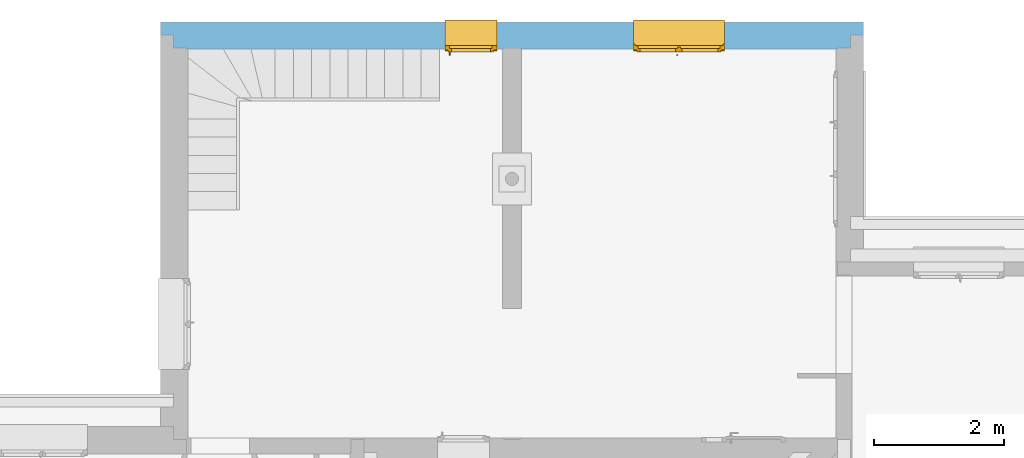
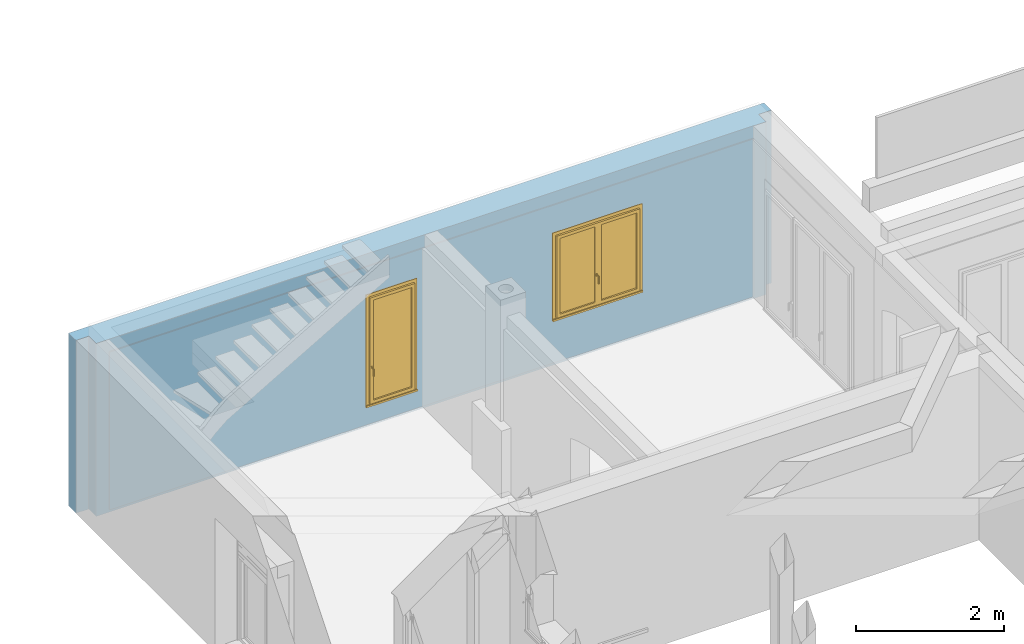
# One storey, part 12 of 16: 2 windows, 2 openings, plus 1 element that does not belong to this part.
"""IFC4 building model written with IfcOpenShell, lengths in metres."""

from ifc_helpers import new_model, entity, si_unit, converted_unit, frame, origin, origin_with_axes, place, context, subcontext, project, spatial, polyline, outline, extrude, clip, bounded_halfspace, closed_shell, open_shell, surface_model, source, transform, mapped, material, layer, layer_set, layer_usage, type_object, element, fill, save


model = new_model("IFC4")

# Units and contexts
model_context = context("Model", 3, precision=1e-05, world=origin())
body_context = subcontext(model_context, "Body", "Model", "MODEL_VIEW")
ifc_project = project(units=[si_unit("LENGTHUNIT", "METRE"), si_unit("AREAUNIT", "SQUARE_METRE"), si_unit("VOLUMEUNIT", "CUBIC_METRE"), si_unit("MASSUNIT", "GRAM", prefix="KILO"), converted_unit("PLANEANGLEUNIT", "DEGREE", entity("IfcPlaneAngleMeasure", 0.0174532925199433), si_unit("PLANEANGLEUNIT", "RADIAN"), dimensions=[0, 0, 0, 0, 0, 0, 0])], contexts=[model_context])

# Building, storey
building_placement = place(None, origin())
building = spatial("IfcBuilding", under=ifc_project, at=building_placement, Name="Projet de Construction", CompositionType="ELEMENT")
storey_placement = place(building_placement, frame((0.0, 0.0, -0.05)))
storey = spatial("IfcBuildingStorey", under=building, at=storey_placement, Name="RDC", CompositionType="ELEMENT", Elevation=-0.05)

# Wall, openings, windows
ifc_material_1 = material()
ifc_layer_1 = layer(ifc_material_1, 0.2)
ifc_material_2 = material()
ifc_layer_2 = layer(ifc_material_2, 0.2)
ifc_material_3 = material()
ifc_layer_3 = layer(ifc_material_3, 0.02)
ifc_layer_set = layer_set([ifc_layer_1, ifc_layer_2, ifc_layer_3])
ifc_layer_usage = layer_usage(ifc_layer_set, "AXIS2", "POSITIVE", 0.0)
wall_placement = place(storey_placement, frame((3.5540625, 8.13979166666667, 0.0), z_axis=(0.0, 0.0, 1.0), x_axis=(-1.0, 8.39017252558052e-17, 0.0)))
wall = element("IfcWall", 1, at=wall_placement, inside=storey, material=ifc_layer_usage, context=body_context, shape_type="Clipping", body=[
    clip(clip(extrude(outline(polyline([(-10.84, -0.420000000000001), (3.52387246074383e-17, -0.420000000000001), (1.84583795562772e-17, -0.220000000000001), (-0.2, -0.220000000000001), (-0.2, -0.0200000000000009), (-0.4, -0.0200000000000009), (-0.4, -9.4305539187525e-16), (-10.44, -8.75934011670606e-16), (-10.44, -0.0200000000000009), (-10.64, -0.0200000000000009), (-10.64, -0.220000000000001), (-10.84, -0.220000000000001), (-10.84, -0.420000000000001)])), frame((10.84, 0.420000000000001, 0.0), z_axis=(0.0, 0.0, 1.0), x_axis=(1.0, 0.0, 0.0)), (0.0, 0.0, 1.0), 2.85), bounded_halfspace(frame((5.42, 0.41, 0.05), z_axis=(0.0, 0.0, 1.0), x_axis=(8.39017252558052e-17, -1.0, 0.0)), True, origin_with_axes(), polyline([(0.400000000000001, 0.42), (0.400000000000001, 0.4), (10.44, 0.4), (10.44, 0.42), (0.400000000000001, 0.42)]))), bounded_halfspace(frame((5.42, 0.41, 2.65), z_axis=(0.0, 0.0, -1.0), x_axis=(1.0, -6.68539643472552e-18, 0.0)), True, origin_with_axes(), polyline([(0.400000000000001, 0.4), (10.44, 0.4), (10.44, 0.42), (0.400000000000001, 0.42), (0.400000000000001, 0.4)]))),
])
opening_1_placement = place(wall_placement, frame((6.455, 0.2, 0.35), z_axis=(0.0, -1.0, 0.0), x_axis=(0.0, 0.0, 1.0)))
opening_1 = element("IfcOpeningStandardCase", 2, at=opening_1_placement, cuts=wall, Name="Baie de fenêtre", PredefinedType="OPENING", context=body_context, shape_type="SweptSolid", body=[
    extrude(outline(polyline([(0.0, 0.8), (1.85, 0.8), (1.85, 0.0), (0.0, 0.0), (0.0, 0.8)])), origin_with_axes(), (0.0, 0.0, 1.0), 0.2),
    extrude(outline(polyline([(0.0, 0.8), (1.85, 0.8), (1.85, 0.0), (0.0, 0.0), (0.0, 0.8)])), frame((0.0, 0.0, -0.2), z_axis=(0.0, 0.0, 1.0), x_axis=(1.0, 0.0, 0.0)), (0.0, 0.0, 1.0), 0.2),
    extrude(outline(polyline([(0.0, 0.8), (1.85, 0.8), (1.85, 0.0), (0.0, 0.0), (0.0, 0.8)])), frame((0.0, 0.0, -0.22), z_axis=(0.0, 0.0, 1.0), x_axis=(1.0, 0.0, 0.0)), (0.0, 0.0, 1.0), 0.02),
])
opening_2_placement = place(wall_placement, frame((3.545, 0.2, 0.75), z_axis=(0.0, -1.0, 0.0), x_axis=(0.0, 0.0, 1.0)))
opening_2 = element("IfcOpeningStandardCase", 3, at=opening_2_placement, cuts=wall, Name="Baie de fenêtre", PredefinedType="OPENING", context=body_context, shape_type="SweptSolid", body=[
    extrude(outline(polyline([(0.0, 1.4), (1.45, 1.4), (1.45, 0.0), (0.0, 0.0), (0.0, 1.4)])), origin_with_axes(), (0.0, 0.0, 1.0), 0.2),
    extrude(outline(polyline([(0.0, 1.4), (1.45, 1.4), (1.45, 0.0), (0.0, 0.0), (0.0, 1.4)])), frame((0.0, 0.0, -0.2), z_axis=(0.0, 0.0, 1.0), x_axis=(1.0, 0.0, 0.0)), (0.0, 0.0, 1.0), 0.2),
    extrude(outline(polyline([(0.0, 1.4), (1.45, 1.4), (1.45, 0.0), (0.0, 0.0), (0.0, 1.4)])), frame((0.0, 0.0, -0.22), z_axis=(0.0, 0.0, 1.0), x_axis=(1.0, 0.0, 0.0)), (0.0, 0.0, 1.0), 0.02),
])
ifc_material_4 = material()
window_type_1 = type_object("IfcWindowType", Name="1 vantail blanc", ParameterTakesPrecedence=False, PartitioningType="SINGLE_PANEL", PredefinedType="WINDOW")
shared_shape_1 = source(origin_with_axes(), body_context, "Body", "SurfaceModel", [
    surface_model("IfcShellBasedSurfaceModel", [(0.8, -0.37, 0.0), (0.8, -0.37, -0.03), (0.8, -0.39, -0.03), (0.8, -0.39, 0.02), (0.8, 0.0, 0.03), (0.8, 0.0, 0.0), (0.0, 0.0, 1.13686837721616e-16), (0.0, 0.0, 0.0300000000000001), (0.0, -0.39, 0.0200000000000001), (0.0, -0.39, -0.0299999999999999), (0.0, -0.37, -0.0299999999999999), (0.0, -0.37, 1.13686837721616e-16)], [closed_shell([[[0, 1, 2, 3, 4, 5]], [[6, 7, 8, 9, 10, 11]], [[5, 6, 11, 0]], [[4, 7, 6, 5]], [[3, 8, 7, 4]], [[2, 9, 8, 3]], [[1, 10, 9, 2]], [[0, 11, 10, 1]]], orient=[[False], [False], [False], [False], [False], [False], [False], [False]])]),
    surface_model("IfcShellBasedSurfaceModel", [(0.8, 0.09, 0.0), (0.8, 0.04, 0.0), (0.8, 0.04, 0.03), (0.8, 0.09, 0.03), (0.0, 0.04, 1.13686837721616e-16), (0.0, 0.09, 1.13686837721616e-16), (0.0, 0.09, 0.0300000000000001), (0.0, 0.04, 0.0300000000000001)], [closed_shell([[[0, 1, 2, 3]], [[4, 5, 6, 7]], [[1, 0, 5, 4]], [[2, 1, 4, 7]], [[3, 2, 7, 6]], [[0, 3, 6, 5]]], orient=[[False], [False], [False], [False], [False], [False]])]),
    surface_model("IfcShellBasedSurfaceModel", [(0.8, 0.07, 1.85), (0.73, 0.07, 1.85), (0.73, 0.07, 0.0), (0.8, 0.07, 0.0), (0.8, 0.0, 0.0), (0.73, 0.0, 0.0), (0.73, 0.0, 1.85), (0.8, 0.0, 1.85)], [closed_shell([[[0, 1, 2, 3]], [[4, 5, 6, 7]], [[3, 4, 7, 0]], [[2, 5, 4, 3]], [[1, 6, 5, 2]], [[0, 7, 6, 1]]], orient=[[False], [False], [False], [False], [False], [False]])]),
    surface_model("IfcShellBasedSurfaceModel", [(0.07, 0.07, 1.85), (0.0, 0.07, 1.85), (0.0, 0.07, 0.0), (0.07, 0.07, 0.0), (0.07, 0.0, 0.0), (0.0, 0.0, 0.0), (0.0, 0.0, 1.85), (0.07, 0.0, 1.85)], [closed_shell([[[0, 1, 2, 3]], [[4, 5, 6, 7]], [[3, 4, 7, 0]], [[2, 5, 4, 3]], [[1, 6, 5, 2]], [[0, 7, 6, 1]]], orient=[[False], [False], [False], [False], [False], [False]])]),
    surface_model("IfcShellBasedSurfaceModel", [(0.73, 0.07, 0.07), (0.07, 0.07, 0.07), (0.07, 0.07, 0.0), (0.73, 0.07, 0.0), (0.73, 0.0, 0.0), (0.07, 0.0, 0.0), (0.07, 0.0, 0.07), (0.73, 0.0, 0.07)], [closed_shell([[[0, 1, 2, 3]], [[4, 5, 6, 7]], [[3, 4, 7, 0]], [[2, 5, 4, 3]], [[1, 6, 5, 2]], [[0, 7, 6, 1]]], orient=[[False], [False], [False], [False], [False], [False]])]),
    surface_model("IfcShellBasedSurfaceModel", [(0.73, 0.07, 1.85), (0.07, 0.07, 1.85), (0.07, 0.07, 1.78), (0.73, 0.07, 1.78), (0.73, 0.0, 1.78), (0.07, 0.0, 1.78), (0.07, 0.0, 1.85), (0.73, 0.0, 1.85)], [closed_shell([[[0, 1, 2, 3]], [[4, 5, 6, 7]], [[3, 4, 7, 0]], [[2, 5, 4, 3]], [[1, 6, 5, 2]], [[0, 7, 6, 1]]], orient=[[False], [False], [False], [False], [False], [False]])]),
    surface_model("IfcShellBasedSurfaceModel", [(0.75, 0.1, 1.8), (0.7, 0.1, 1.8), (0.7, 0.1, 0.05), (0.75, 0.1, 0.05), (0.75, 0.05, 0.05), (0.7, 0.05, 0.05), (0.7, 0.05, 1.8), (0.75, 0.05, 1.8)], [closed_shell([[[0, 1, 2, 3]], [[4, 5, 6, 7]], [[3, 4, 7, 0]], [[2, 5, 4, 3]], [[1, 6, 5, 2]], [[0, 7, 6, 1]]], orient=[[False], [False], [False], [False], [False], [False]])]),
    surface_model("IfcShellBasedSurfaceModel", [(0.1, 0.1, 1.8), (0.05, 0.1, 1.8), (0.05, 0.1, 0.05), (0.1, 0.1, 0.05), (0.1, 0.05, 0.05), (0.05, 0.05, 0.05), (0.05, 0.05, 1.8), (0.1, 0.05, 1.8)], [closed_shell([[[0, 1, 2, 3]], [[4, 5, 6, 7]], [[3, 4, 7, 0]], [[2, 5, 4, 3]], [[1, 6, 5, 2]], [[0, 7, 6, 1]]], orient=[[False], [False], [False], [False], [False], [False]])]),
    surface_model("IfcShellBasedSurfaceModel", [(0.7, 0.1, 0.1), (0.1, 0.1, 0.1), (0.1, 0.1, 0.05), (0.7, 0.1, 0.05), (0.7, 0.05, 0.05), (0.1, 0.05, 0.05), (0.1, 0.05, 0.1), (0.7, 0.05, 0.1)], [closed_shell([[[0, 1, 2, 3]], [[4, 5, 6, 7]], [[3, 4, 7, 0]], [[2, 5, 4, 3]], [[1, 6, 5, 2]], [[0, 7, 6, 1]]], orient=[[False], [False], [False], [False], [False], [False]])]),
    surface_model("IfcShellBasedSurfaceModel", [(0.7, 0.1, 1.8), (0.1, 0.1, 1.8), (0.1, 0.1, 1.75), (0.7, 0.1, 1.75), (0.7, 0.05, 1.75), (0.1, 0.05, 1.75), (0.1, 0.05, 1.8), (0.7, 0.05, 1.8)], [closed_shell([[[0, 1, 2, 3]], [[4, 5, 6, 7]], [[3, 4, 7, 0]], [[2, 5, 4, 3]], [[1, 6, 5, 2]], [[0, 7, 6, 1]]], orient=[[False], [False], [False], [False], [False], [False]])]),
    surface_model("IfcShellBasedSurfaceModel", [(0.7375, 0.1, 0.67), (0.7375, 0.1, 0.63), (0.7125, 0.1, 0.63), (0.7125, 0.1, 0.67), (0.7375, 0.11, 0.63), (0.7375, 0.11, 0.67), (0.7125, 0.11, 0.67), (0.7125, 0.11, 0.63)], [closed_shell([[[0, 1, 2, 3]], [[4, 5, 6, 7]], [[1, 0, 5, 4]], [[2, 1, 4, 7]], [[3, 2, 7, 6]], [[0, 3, 6, 5]]], orient=[[False], [False], [False], [False], [False], [False]])]),
    surface_model("IfcShellBasedSurfaceModel", [(0.715, 0.11, 0.65), (0.716339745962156, 0.11, 0.655), (0.72, 0.11, 0.658660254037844), (0.725, 0.11, 0.66), (0.73, 0.11, 0.658660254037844), (0.733660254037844, 0.11, 0.655), (0.735, 0.11, 0.65), (0.733660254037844, 0.11, 0.645), (0.73, 0.11, 0.641339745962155), (0.725, 0.11, 0.64), (0.72, 0.11, 0.641339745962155), (0.716339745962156, 0.11, 0.645), (0.715, 0.15, 0.65), (0.716339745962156, 0.155, 0.655), (0.72, 0.158660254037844, 0.658660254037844), (0.725, 0.16, 0.66), (0.73, 0.158660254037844, 0.658660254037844), (0.733660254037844, 0.155, 0.655), (0.735, 0.15, 0.65), (0.733660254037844, 0.145, 0.645), (0.73, 0.141339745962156, 0.641339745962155), (0.725, 0.14, 0.64), (0.72, 0.141339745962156, 0.641339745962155), (0.716339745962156, 0.145, 0.645), (0.715, 0.15, 0.535), (0.716339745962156, 0.145, 0.535), (0.72, 0.141339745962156, 0.535), (0.725, 0.14, 0.535), (0.73, 0.141339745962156, 0.535), (0.733660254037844, 0.145, 0.535), (0.735, 0.15, 0.535), (0.733660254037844, 0.155, 0.535), (0.73, 0.158660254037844, 0.535), (0.725, 0.16, 0.535), (0.72, 0.158660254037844, 0.535), (0.716339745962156, 0.155, 0.535)], [closed_shell([[[0, 1, 2, 3, 4, 5, 6, 7, 8, 9, 10, 11]], [[0, 12, 13, 1]], [[1, 13, 14, 2]], [[2, 14, 15, 3]], [[3, 15, 16, 4]], [[4, 16, 17, 5]], [[5, 17, 18, 6]], [[6, 18, 19, 7]], [[7, 19, 20, 8]], [[8, 20, 21, 9]], [[9, 21, 22, 10]], [[10, 22, 23, 11]], [[11, 23, 12, 0]], [[24, 25, 26, 27, 28, 29, 30, 31, 32, 33, 34, 35]], [[12, 24, 35, 13]], [[13, 35, 34, 14]], [[14, 34, 33, 15]], [[15, 33, 32, 16]], [[16, 32, 31, 17]], [[17, 31, 30, 18]], [[18, 30, 29, 19]], [[19, 29, 28, 20]], [[20, 28, 27, 21]], [[21, 27, 26, 22]], [[22, 26, 25, 23]], [[23, 25, 24, 12]]], orient=[[False], [False], [False], [False], [False], [False], [False], [False], [False], [False], [False], [False], [False], [False], [False], [False], [False], [False], [False], [False], [False], [False], [False], [False], [False], [False]])]),
    surface_model("IfcShellBasedSurfaceModel", [(0.7, 0.075, 0.1), (0.7, 0.075, 1.75), (0.1, 0.075, 1.75), (0.1, 0.075, 0.1)], [open_shell([[[0, 1, 2, 3]]], orient=[[False]])]),
])
window_1_placement = place(opening_1_placement, frame((0.0, 0.8, -0.16), z_axis=(1.0, 0.0, 0.0), x_axis=(0.0, -1.0, -8.39017252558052e-17)))
window_1 = element("IfcWindow", 4, at=window_1_placement, inside=storey, type_object=window_type_1, material=ifc_material_4, Name="1 vantail blanc", OverallHeight=1.85, OverallWidth=0.8, context=body_context, shape_type="MappedRepresentation", body=[
    mapped(shared_shape_1, transform((0.0, 0.0, 0.0), x_axis=(1.0, 0.0, 0.0), y_axis=(0.0, 1.0, 0.0), z_axis=(0.0, 0.0, 1.0), scale=1.0)),
])
fill(opening_1, window_1)
ifc_material_5 = material()
window_type_2 = type_object("IfcWindowType", Name="3 vantaux blanc, monté", ParameterTakesPrecedence=False, PartitioningType="DOUBLE_PANEL_VERTICAL", PredefinedType="WINDOW")
shared_shape_2 = source(origin_with_axes(), body_context, "Body", "SurfaceModel", [
    surface_model("IfcShellBasedSurfaceModel", [(1.4, -0.37, 0.0), (1.4, -0.37, -0.03), (1.4, -0.39, -0.03), (1.4, -0.39, 0.02), (1.4, 0.0, 0.03), (1.4, 0.0, 0.0), (2.27373675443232e-16, 0.0, 2.27373675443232e-16), (2.27373675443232e-16, 0.0, 0.0300000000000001), (2.27373675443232e-16, -0.39, 0.0200000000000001), (2.27373675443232e-16, -0.39, -0.0299999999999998), (2.27373675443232e-16, -0.37, -0.0299999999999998), (2.27373675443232e-16, -0.37, 2.27373675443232e-16)], [closed_shell([[[0, 1, 2, 3, 4, 5]], [[6, 7, 8, 9, 10, 11]], [[5, 6, 11, 0]], [[4, 7, 6, 5]], [[3, 8, 7, 4]], [[2, 9, 8, 3]], [[1, 10, 9, 2]], [[0, 11, 10, 1]]], orient=[[False], [False], [False], [False], [False], [False], [False], [False]])]),
    surface_model("IfcShellBasedSurfaceModel", [(1.4, 0.09, 0.0), (1.4, 0.04, 0.0), (1.4, 0.04, 0.03), (1.4, 0.09, 0.03), (2.27373675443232e-16, 0.04, 2.27373675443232e-16), (2.27373675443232e-16, 0.09, 2.27373675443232e-16), (2.27373675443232e-16, 0.09, 0.0300000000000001), (2.27373675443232e-16, 0.04, 0.0300000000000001)], [closed_shell([[[0, 1, 2, 3]], [[4, 5, 6, 7]], [[1, 0, 5, 4]], [[2, 1, 4, 7]], [[3, 2, 7, 6]], [[0, 3, 6, 5]]], orient=[[False], [False], [False], [False], [False], [False]])]),
    surface_model("IfcShellBasedSurfaceModel", [(1.4, 0.0, 1.45), (0.0, 0.0, 1.45), (0.0, 0.0, 1.25), (1.4, 0.0, 1.25), (1.4, -0.2, 1.25), (0.0, -0.2, 1.25), (0.0, -0.2, 1.45), (1.4, -0.2, 1.45)], [closed_shell([[[0, 1, 2, 3]], [[4, 5, 6, 7]], [[3, 4, 7, 0]], [[2, 5, 4, 3]], [[1, 6, 5, 2]], [[0, 7, 6, 1]]], orient=[[False], [False], [False], [False], [False], [False]])]),
    surface_model("IfcShellBasedSurfaceModel", [(1.4, 0.0, 1.25), (1.38, 0.0, 1.25), (1.38, 0.0, 0.0), (1.4, 0.0, 0.0), (1.4, -0.02, 0.0), (1.38, -0.02, 0.0), (1.38, -0.02, 1.25), (1.4, -0.02, 1.25)], [closed_shell([[[0, 1, 2, 3]], [[4, 5, 6, 7]], [[3, 4, 7, 0]], [[2, 5, 4, 3]], [[1, 6, 5, 2]], [[0, 7, 6, 1]]], orient=[[False], [False], [False], [False], [False], [False]])]),
    surface_model("IfcShellBasedSurfaceModel", [(0.02, 0.0, 1.25), (0.0, 0.0, 1.25), (0.0, 0.0, 0.0), (0.02, 0.0, 0.0), (0.02, -0.02, 0.0), (0.0, -0.02, 0.0), (0.0, -0.02, 1.25), (0.02, -0.02, 1.25)], [closed_shell([[[0, 1, 2, 3]], [[4, 5, 6, 7]], [[3, 4, 7, 0]], [[2, 5, 4, 3]], [[1, 6, 5, 2]], [[0, 7, 6, 1]]], orient=[[False], [False], [False], [False], [False], [False]])]),
    surface_model("IfcShellBasedSurfaceModel", [(1.39, -0.005, 1.245), (0.01, -0.005, 1.245), (0.01, -0.005, 1.195), (1.39, -0.005, 1.195), (1.39, -0.015, 1.195), (0.01, -0.015, 1.195), (0.01, -0.015, 1.245), (1.39, -0.015, 1.245)], [closed_shell([[[0, 1, 2, 3]], [[4, 5, 6, 7]], [[3, 4, 7, 0]], [[2, 5, 4, 3]], [[1, 6, 5, 2]], [[0, 7, 6, 1]]], orient=[[False], [False], [False], [False], [False], [False]])]),
    surface_model("IfcShellBasedSurfaceModel", [(1.39, -0.005, 1.19), (0.01, -0.005, 1.19), (0.01, -0.005, 1.14), (1.39, -0.005, 1.14), (1.39, -0.015, 1.14), (0.01, -0.015, 1.14), (0.01, -0.015, 1.19), (1.39, -0.015, 1.19)], [closed_shell([[[0, 1, 2, 3]], [[4, 5, 6, 7]], [[3, 4, 7, 0]], [[2, 5, 4, 3]], [[1, 6, 5, 2]], [[0, 7, 6, 1]]], orient=[[False], [False], [False], [False], [False], [False]])]),
    surface_model("IfcShellBasedSurfaceModel", [(1.39, -0.005, 1.135), (0.01, -0.005, 1.135), (0.01, -0.005, 1.085), (1.39, -0.005, 1.085), (1.39, -0.015, 1.085), (0.01, -0.015, 1.085), (0.01, -0.015, 1.135), (1.39, -0.015, 1.135)], [closed_shell([[[0, 1, 2, 3]], [[4, 5, 6, 7]], [[3, 4, 7, 0]], [[2, 5, 4, 3]], [[1, 6, 5, 2]], [[0, 7, 6, 1]]], orient=[[False], [False], [False], [False], [False], [False]])]),
    surface_model("IfcShellBasedSurfaceModel", [(1.39, -0.005, 1.08), (0.01, -0.005, 1.08), (0.01, -0.005, 1.03), (1.39, -0.005, 1.03), (1.39, -0.015, 1.03), (0.01, -0.015, 1.03), (0.01, -0.015, 1.08), (1.39, -0.015, 1.08)], [closed_shell([[[0, 1, 2, 3]], [[4, 5, 6, 7]], [[3, 4, 7, 0]], [[2, 5, 4, 3]], [[1, 6, 5, 2]], [[0, 7, 6, 1]]], orient=[[False], [False], [False], [False], [False], [False]])]),
    surface_model("IfcShellBasedSurfaceModel", [(1.39, -0.005, 1.025), (0.01, -0.005, 1.025), (0.01, -0.005, 0.975), (1.39, -0.005, 0.975), (1.39, -0.015, 0.975), (0.01, -0.015, 0.975), (0.01, -0.015, 1.025), (1.39, -0.015, 1.025)], [closed_shell([[[0, 1, 2, 3]], [[4, 5, 6, 7]], [[3, 4, 7, 0]], [[2, 5, 4, 3]], [[1, 6, 5, 2]], [[0, 7, 6, 1]]], orient=[[False], [False], [False], [False], [False], [False]])]),
    surface_model("IfcShellBasedSurfaceModel", [(1.39, -0.005, 0.97), (0.01, -0.005, 0.97), (0.01, -0.005, 0.92), (1.39, -0.005, 0.92), (1.39, -0.015, 0.92), (0.01, -0.015, 0.92), (0.01, -0.015, 0.97), (1.39, -0.015, 0.97)], [closed_shell([[[0, 1, 2, 3]], [[4, 5, 6, 7]], [[3, 4, 7, 0]], [[2, 5, 4, 3]], [[1, 6, 5, 2]], [[0, 7, 6, 1]]], orient=[[False], [False], [False], [False], [False], [False]])]),
    surface_model("IfcShellBasedSurfaceModel", [(1.4, 0.07, 1.45), (1.33, 0.07, 1.45), (1.33, 0.07, 0.0), (1.4, 0.07, 0.0), (1.4, 0.0, 0.0), (1.33, 0.0, 0.0), (1.33, 0.0, 1.45), (1.4, 0.0, 1.45)], [closed_shell([[[0, 1, 2, 3]], [[4, 5, 6, 7]], [[3, 4, 7, 0]], [[2, 5, 4, 3]], [[1, 6, 5, 2]], [[0, 7, 6, 1]]], orient=[[False], [False], [False], [False], [False], [False]])]),
    surface_model("IfcShellBasedSurfaceModel", [(0.0700000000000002, 0.07, 1.45), (2.27373675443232e-16, 0.07, 1.45), (2.27373675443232e-16, 0.07, 0.0), (0.0700000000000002, 0.07, 0.0), (0.0700000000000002, 0.0, 0.0), (2.27373675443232e-16, 0.0, 0.0), (2.27373675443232e-16, 0.0, 1.45), (0.0700000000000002, 0.0, 1.45)], [closed_shell([[[0, 1, 2, 3]], [[4, 5, 6, 7]], [[3, 4, 7, 0]], [[2, 5, 4, 3]], [[1, 6, 5, 2]], [[0, 7, 6, 1]]], orient=[[False], [False], [False], [False], [False], [False]])]),
    surface_model("IfcShellBasedSurfaceModel", [(1.33, 0.07, 0.07), (0.0700000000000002, 0.07, 0.07), (0.0700000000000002, 0.07, 0.0), (1.33, 0.07, 0.0), (1.33, 0.0, 0.0), (0.0700000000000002, 0.0, 0.0), (0.0700000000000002, 0.0, 0.07), (1.33, 0.0, 0.07)], [closed_shell([[[0, 1, 2, 3]], [[4, 5, 6, 7]], [[3, 4, 7, 0]], [[2, 5, 4, 3]], [[1, 6, 5, 2]], [[0, 7, 6, 1]]], orient=[[False], [False], [False], [False], [False], [False]])]),
    surface_model("IfcShellBasedSurfaceModel", [(1.33, 0.07, 1.45), (0.0700000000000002, 0.07, 1.45), (0.0700000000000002, 0.07, 1.38), (1.33, 0.07, 1.38), (1.33, 0.0, 1.38), (0.0700000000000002, 0.0, 1.38), (0.0700000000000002, 0.0, 1.45), (1.33, 0.0, 1.45)], [closed_shell([[[0, 1, 2, 3]], [[4, 5, 6, 7]], [[3, 4, 7, 0]], [[2, 5, 4, 3]], [[1, 6, 5, 2]], [[0, 7, 6, 1]]], orient=[[False], [False], [False], [False], [False], [False]])]),
    surface_model("IfcShellBasedSurfaceModel", [(1.35, 0.1, 1.4), (1.3, 0.1, 1.4), (1.3, 0.1, 0.05), (1.35, 0.1, 0.05), (1.35, 0.05, 0.05), (1.3, 0.05, 0.05), (1.3, 0.05, 1.4), (1.35, 0.05, 1.4)], [closed_shell([[[0, 1, 2, 3]], [[4, 5, 6, 7]], [[3, 4, 7, 0]], [[2, 5, 4, 3]], [[1, 6, 5, 2]], [[0, 7, 6, 1]]], orient=[[False], [False], [False], [False], [False], [False]])]),
    surface_model("IfcShellBasedSurfaceModel", [(0.7505, 0.1, 1.4), (0.7005, 0.1, 1.4), (0.7005, 0.1, 0.05), (0.7505, 0.1, 0.05), (0.7505, 0.05, 0.05), (0.7005, 0.05, 0.05), (0.7005, 0.05, 1.4), (0.7505, 0.05, 1.4)], [closed_shell([[[0, 1, 2, 3]], [[4, 5, 6, 7]], [[3, 4, 7, 0]], [[2, 5, 4, 3]], [[1, 6, 5, 2]], [[0, 7, 6, 1]]], orient=[[False], [False], [False], [False], [False], [False]])]),
    surface_model("IfcShellBasedSurfaceModel", [(1.3, 0.1, 0.1), (0.7505, 0.1, 0.1), (0.7505, 0.1, 0.05), (1.3, 0.1, 0.05), (1.3, 0.05, 0.05), (0.7505, 0.05, 0.05), (0.7505, 0.05, 0.1), (1.3, 0.05, 0.1)], [closed_shell([[[0, 1, 2, 3]], [[4, 5, 6, 7]], [[3, 4, 7, 0]], [[2, 5, 4, 3]], [[1, 6, 5, 2]], [[0, 7, 6, 1]]], orient=[[False], [False], [False], [False], [False], [False]])]),
    surface_model("IfcShellBasedSurfaceModel", [(1.3, 0.1, 1.4), (0.7505, 0.1, 1.4), (0.7505, 0.1, 1.35), (1.3, 0.1, 1.35), (1.3, 0.05, 1.35), (0.7505, 0.05, 1.35), (0.7505, 0.05, 1.4), (1.3, 0.05, 1.4)], [closed_shell([[[0, 1, 2, 3]], [[4, 5, 6, 7]], [[3, 4, 7, 0]], [[2, 5, 4, 3]], [[1, 6, 5, 2]], [[0, 7, 6, 1]]], orient=[[False], [False], [False], [False], [False], [False]])]),
    surface_model("IfcShellBasedSurfaceModel", [(0.7255, 0.05, 1.38), (0.6755, 0.05, 1.38), (0.6755, 0.05, 0.07), (0.7255, 0.05, 0.07), (0.7255, 0.025, 0.07), (0.6755, 0.025, 0.07), (0.6755, 0.025, 1.38), (0.7255, 0.025, 1.38)], [closed_shell([[[0, 1, 2, 3]], [[4, 5, 6, 7]], [[3, 4, 7, 0]], [[2, 5, 4, 3]], [[1, 6, 5, 2]], [[0, 7, 6, 1]]], orient=[[False], [False], [False], [False], [False], [False]])]),
    surface_model("IfcShellBasedSurfaceModel", [(0.738, 0.1, 0.57), (0.738, 0.1, 0.53), (0.713, 0.1, 0.53), (0.713, 0.1, 0.57), (0.738, 0.11, 0.53), (0.738, 0.11, 0.57), (0.713, 0.11, 0.57), (0.713, 0.11, 0.53)], [closed_shell([[[0, 1, 2, 3]], [[4, 5, 6, 7]], [[1, 0, 5, 4]], [[2, 1, 4, 7]], [[3, 2, 7, 6]], [[0, 3, 6, 5]]], orient=[[False], [False], [False], [False], [False], [False]])]),
    surface_model("IfcShellBasedSurfaceModel", [(0.7155, 0.11, 0.55), (0.716839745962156, 0.11, 0.555), (0.7205, 0.11, 0.558660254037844), (0.7255, 0.11, 0.56), (0.7305, 0.11, 0.558660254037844), (0.734160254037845, 0.11, 0.555), (0.7355, 0.11, 0.55), (0.734160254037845, 0.11, 0.545), (0.7305, 0.11, 0.541339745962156), (0.7255, 0.11, 0.54), (0.7205, 0.11, 0.541339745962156), (0.716839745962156, 0.11, 0.545), (0.7155, 0.15, 0.55), (0.716839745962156, 0.155, 0.555), (0.7205, 0.158660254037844, 0.558660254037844), (0.7255, 0.16, 0.56), (0.7305, 0.158660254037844, 0.558660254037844), (0.734160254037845, 0.155, 0.555), (0.7355, 0.15, 0.55), (0.734160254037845, 0.145, 0.545), (0.7305, 0.141339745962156, 0.541339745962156), (0.7255, 0.14, 0.54), (0.7205, 0.141339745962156, 0.541339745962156), (0.716839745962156, 0.145, 0.545), (0.7155, 0.15, 0.435), (0.716839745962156, 0.145, 0.435), (0.7205, 0.141339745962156, 0.435), (0.7255, 0.14, 0.435), (0.7305, 0.141339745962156, 0.435), (0.734160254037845, 0.145, 0.435), (0.7355, 0.15, 0.435), (0.734160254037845, 0.155, 0.435), (0.7305, 0.158660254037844, 0.435), (0.7255, 0.16, 0.435), (0.7205, 0.158660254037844, 0.435), (0.716839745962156, 0.155, 0.435)], [closed_shell([[[0, 1, 2, 3, 4, 5, 6, 7, 8, 9, 10, 11]], [[0, 12, 13, 1]], [[1, 13, 14, 2]], [[2, 14, 15, 3]], [[3, 15, 16, 4]], [[4, 16, 17, 5]], [[5, 17, 18, 6]], [[6, 18, 19, 7]], [[7, 19, 20, 8]], [[8, 20, 21, 9]], [[9, 21, 22, 10]], [[10, 22, 23, 11]], [[11, 23, 12, 0]], [[24, 25, 26, 27, 28, 29, 30, 31, 32, 33, 34, 35]], [[12, 24, 35, 13]], [[13, 35, 34, 14]], [[14, 34, 33, 15]], [[15, 33, 32, 16]], [[16, 32, 31, 17]], [[17, 31, 30, 18]], [[18, 30, 29, 19]], [[19, 29, 28, 20]], [[20, 28, 27, 21]], [[21, 27, 26, 22]], [[22, 26, 25, 23]], [[23, 25, 24, 12]]], orient=[[False], [False], [False], [False], [False], [False], [False], [False], [False], [False], [False], [False], [False], [False], [False], [False], [False], [False], [False], [False], [False], [False], [False], [False], [False], [False]])]),
    surface_model("IfcShellBasedSurfaceModel", [(0.6995, 0.1, 1.4), (0.6495, 0.1, 1.4), (0.6495, 0.1, 0.05), (0.6995, 0.1, 0.05), (0.6995, 0.05, 0.05), (0.6495, 0.05, 0.05), (0.6495, 0.05, 1.4), (0.6995, 0.05, 1.4)], [closed_shell([[[0, 1, 2, 3]], [[4, 5, 6, 7]], [[3, 4, 7, 0]], [[2, 5, 4, 3]], [[1, 6, 5, 2]], [[0, 7, 6, 1]]], orient=[[False], [False], [False], [False], [False], [False]])]),
    surface_model("IfcShellBasedSurfaceModel", [(0.1, 0.1, 1.4), (0.0500000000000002, 0.1, 1.4), (0.0500000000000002, 0.1, 0.05), (0.1, 0.1, 0.05), (0.1, 0.05, 0.05), (0.0500000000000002, 0.05, 0.05), (0.0500000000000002, 0.05, 1.4), (0.1, 0.05, 1.4)], [closed_shell([[[0, 1, 2, 3]], [[4, 5, 6, 7]], [[3, 4, 7, 0]], [[2, 5, 4, 3]], [[1, 6, 5, 2]], [[0, 7, 6, 1]]], orient=[[False], [False], [False], [False], [False], [False]])]),
    surface_model("IfcShellBasedSurfaceModel", [(0.6495, 0.1, 0.1), (0.1, 0.1, 0.1), (0.1, 0.1, 0.05), (0.6495, 0.1, 0.05), (0.6495, 0.05, 0.05), (0.1, 0.05, 0.05), (0.1, 0.05, 0.1), (0.6495, 0.05, 0.1)], [closed_shell([[[0, 1, 2, 3]], [[4, 5, 6, 7]], [[3, 4, 7, 0]], [[2, 5, 4, 3]], [[1, 6, 5, 2]], [[0, 7, 6, 1]]], orient=[[False], [False], [False], [False], [False], [False]])]),
    surface_model("IfcShellBasedSurfaceModel", [(0.6495, 0.1, 1.4), (0.1, 0.1, 1.4), (0.1, 0.1, 1.35), (0.6495, 0.1, 1.35), (0.6495, 0.05, 1.35), (0.1, 0.05, 1.35), (0.1, 0.05, 1.4), (0.6495, 0.05, 1.4)], [closed_shell([[[0, 1, 2, 3]], [[4, 5, 6, 7]], [[3, 4, 7, 0]], [[2, 5, 4, 3]], [[1, 6, 5, 2]], [[0, 7, 6, 1]]], orient=[[False], [False], [False], [False], [False], [False]])]),
    surface_model("IfcShellBasedSurfaceModel", [(1.3, 0.075, 0.1), (1.3, 0.075, 1.35), (0.7505, 0.075, 1.35), (0.7505, 0.075, 0.1)], [open_shell([[[0, 1, 2, 3]]], orient=[[False]])]),
    surface_model("IfcShellBasedSurfaceModel", [(0.6495, 0.075, 0.1), (0.6495, 0.075, 1.35), (0.1, 0.075, 1.35), (0.1, 0.075, 0.1)], [open_shell([[[0, 1, 2, 3]]], orient=[[False]])]),
])
window_2_placement = place(opening_2_placement, frame((0.0, 1.4, -0.16), z_axis=(1.0, 0.0, 0.0), x_axis=(0.0, -1.0, -8.39017252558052e-17)))
window_2 = element("IfcWindow", 5, at=window_2_placement, inside=storey, type_object=window_type_2, material=ifc_material_5, Name="3 vantaux blanc, monté", OverallHeight=1.45, OverallWidth=1.4, context=body_context, shape_type="MappedRepresentation", body=[
    mapped(shared_shape_2, transform((0.0, 0.0, 0.0), x_axis=(1.0, 0.0, 0.0), y_axis=(0.0, 1.0, 0.0), z_axis=(0.0, 0.0, 1.0), scale=1.0)),
])
fill(opening_2, window_2)

save(model, "model.ifc")
